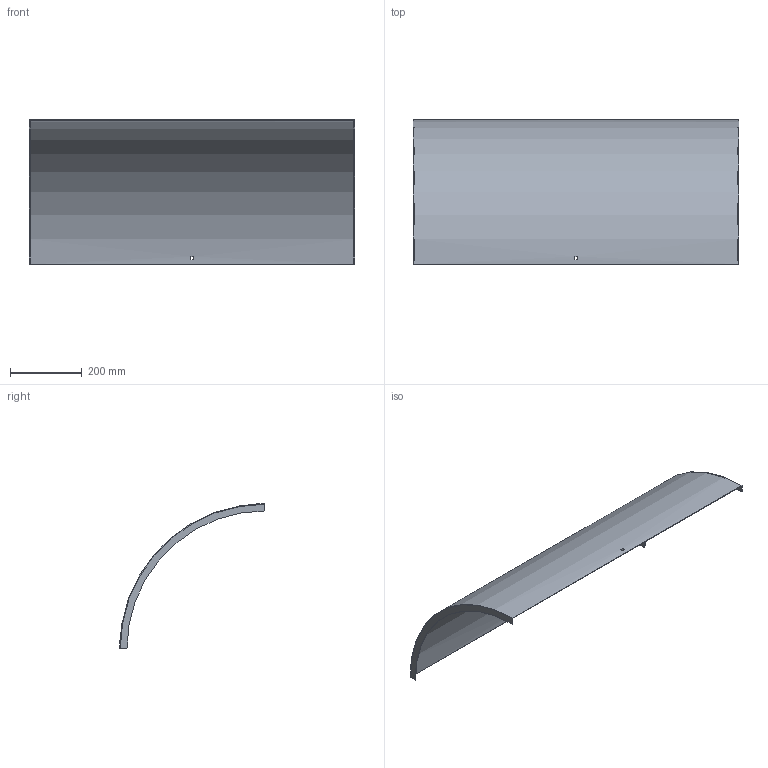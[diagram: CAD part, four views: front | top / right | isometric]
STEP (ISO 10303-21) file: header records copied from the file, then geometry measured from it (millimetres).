
FILE_DESCRIPTION (( 'STEP AP214' ), '1' );
FILE_NAME ('B2_33N3D900.step', '2025-02-21T10:47:23', ( '' ), ( '' ), 'SwSTEP 2.0', 'SolidWorks 2023', '' );
FILE_SCHEMA (( 'AUTOMOTIVE_DESIGN' ));
Length unit declared in the file: millimetre
Products named in the file (1): B2_33N3D900
Bounding box: 903 x 401.5 x 401.5 mm (x, y, z)
Volume: 886542.8 mm3; surface area: 1186771.5 mm2
Topology: 1 solids, 1 shells, 18 faces, 48 edges, 32 vertices
Faces by surface type: plane 14, cylinder 4
Entity records: 599 total; most frequent: DIRECTION 102, CARTESIAN_POINT 99, ORIENTED_EDGE 96, EDGE_CURVE 48, AXIS2_PLACEMENT_3D 35, VECTOR 32, VERTEX_POINT 32, LINE 32
